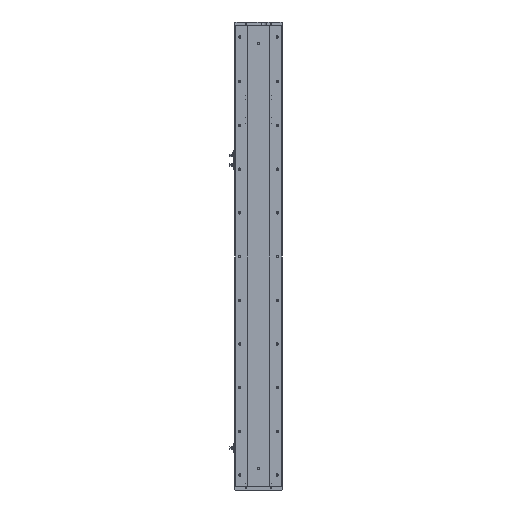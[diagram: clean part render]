
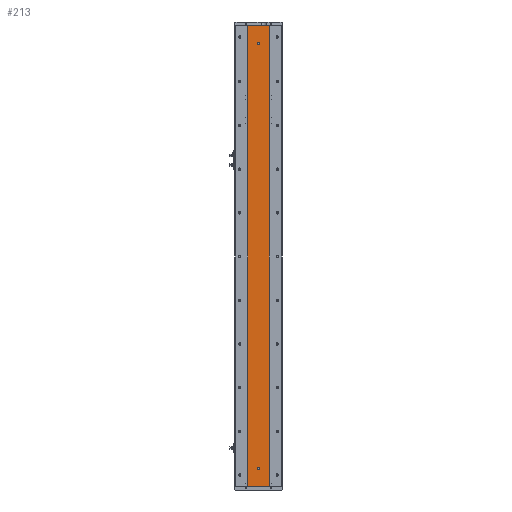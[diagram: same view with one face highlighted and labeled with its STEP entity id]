
A CAD part, left-side view. The second image highlights one B-rep face of the part: STEP entity #213.
In plain terms, the highlighted planar face has unit normal (-1, 0, 0).
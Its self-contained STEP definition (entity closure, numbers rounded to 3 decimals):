
#213 = ADVANCED_FACE ( 'NONE', ( #20143, #35159, #36101 ), #17549, .F. ) ;
#459 = DIRECTION ( 'NONE',  ( -1., 0., 0. ) ) ;
#1183 = EDGE_LOOP ( 'NONE', ( #2146, #31693 ) ) ;
#2096 = ORIENTED_EDGE ( 'NONE', *, *, #8439, .F. ) ;
#2146 = ORIENTED_EDGE ( 'NONE', *, *, #8100, .F. ) ;
#2249 = CIRCLE ( 'NONE', #21622, 3. ) ;
#2748 = ORIENTED_EDGE ( 'NONE', *, *, #13343, .F. ) ;
#4280 = DIRECTION ( 'NONE',  ( 0., 0., -1. ) ) ;
#4372 = CARTESIAN_POINT ( 'NONE',  ( -24.994, 0., 47. ) ) ;
#5223 = LINE ( 'NONE', #28198, #36242 ) ;
#5454 = LINE ( 'NONE', #36158, #21473 ) ;
#6476 = CARTESIAN_POINT ( 'NONE',  ( -24.994, -29.785, 0. ) ) ;
#7330 = CIRCLE ( 'NONE', #28599, 3. ) ;
#7400 = CARTESIAN_POINT ( 'NONE',  ( -24.994, 0., 50. ) ) ;
#7782 = AXIS2_PLACEMENT_3D ( 'NONE', #18469, #459, #21503 ) ;
#8100 = EDGE_CURVE ( 'NONE', #23313, #16686, #2249, .T. ) ;
#8439 = EDGE_CURVE ( 'NONE', #11694, #11923, #5454, .T. ) ;
#8769 = VERTEX_POINT ( 'NONE', #38427 ) ;
#8916 = VERTEX_POINT ( 'NONE', #30285 ) ;
#10459 = DIRECTION ( 'NONE',  ( 0., 0., 1. ) ) ;
#10730 = VERTEX_POINT ( 'NONE', #6476 ) ;
#10783 = CARTESIAN_POINT ( 'NONE',  ( -24.994, 29.785, 0. ) ) ;
#11694 = VERTEX_POINT ( 'NONE', #37237 ) ;
#11743 = DIRECTION ( 'NONE',  ( 1., 0., 0. ) ) ;
#11923 = VERTEX_POINT ( 'NONE', #38535 ) ;
#13303 = CARTESIAN_POINT ( 'NONE',  ( -24.994, 0., 50. ) ) ;
#13343 = EDGE_CURVE ( 'NONE', #8916, #8769, #22675, .T. ) ;
#13418 = CARTESIAN_POINT ( 'NONE',  ( -24.994, 0., 1215. ) ) ;
#13538 = EDGE_CURVE ( 'NONE', #11694, #17164, #5223, .T. ) ;
#13809 = VECTOR ( 'NONE', #4280, 1000. ) ;
#14934 = EDGE_CURVE ( 'NONE', #16686, #23313, #7330, .T. ) ;
#16335 = ORIENTED_EDGE ( 'NONE', *, *, #35121, .F. ) ;
#16384 = DIRECTION ( 'NONE',  ( 0., 0., 1. ) ) ;
#16485 = DIRECTION ( 'NONE',  ( 0., 0., 1. ) ) ;
#16686 = VERTEX_POINT ( 'NONE', #4372 ) ;
#16825 = CARTESIAN_POINT ( 'NONE',  ( -24.994, 29.785, 0. ) ) ;
#16952 = DIRECTION ( 'NONE',  ( 0., -1., 0. ) ) ;
#17164 = VERTEX_POINT ( 'NONE', #10783 ) ;
#17549 = PLANE ( 'NONE',  #23681 ) ;
#18055 = EDGE_CURVE ( 'NONE', #8769, #8916, #21895, .T. ) ;
#18192 = DIRECTION ( 'NONE',  ( 0., -1., 0. ) ) ;
#18469 = CARTESIAN_POINT ( 'NONE',  ( -24.994, 0., 1215. ) ) ;
#20143 = FACE_BOUND ( 'NONE', #35669, .T. ) ;
#21153 = AXIS2_PLACEMENT_3D ( 'NONE', #13418, #34437, #16485 ) ;
#21473 = VECTOR ( 'NONE', #18192, 1000. ) ;
#21503 = DIRECTION ( 'NONE',  ( 0., 0., 1. ) ) ;
#21622 = AXIS2_PLACEMENT_3D ( 'NONE', #13303, #34339, #16384 ) ;
#21663 = LINE ( 'NONE', #16825, #29666 ) ;
#21895 = CIRCLE ( 'NONE', #21153, 3. ) ;
#22287 = CARTESIAN_POINT ( 'NONE',  ( -24.994, -29.785, 1265. ) ) ;
#22675 = CIRCLE ( 'NONE', #7782, 3. ) ;
#23013 = ORIENTED_EDGE ( 'NONE', *, *, #13538, .T. ) ;
#23313 = VERTEX_POINT ( 'NONE', #31140 ) ;
#23681 = AXIS2_PLACEMENT_3D ( 'NONE', #29783, #11743, #32806 ) ;
#26875 = EDGE_CURVE ( 'NONE', #17164, #10730, #21663, .T. ) ;
#28064 = ORIENTED_EDGE ( 'NONE', *, *, #26875, .T. ) ;
#28198 = CARTESIAN_POINT ( 'NONE',  ( -24.994, 29.785, 1265. ) ) ;
#28494 = DIRECTION ( 'NONE',  ( -1., 0., 0. ) ) ;
#28599 = AXIS2_PLACEMENT_3D ( 'NONE', #7400, #28494, #10459 ) ;
#29666 = VECTOR ( 'NONE', #16952, 1000. ) ;
#29783 = CARTESIAN_POINT ( 'NONE',  ( -24.994, 29.785, 1265. ) ) ;
#29836 = LINE ( 'NONE', #22287, #13809 ) ;
#30285 = CARTESIAN_POINT ( 'NONE',  ( -24.994, 0., 1218. ) ) ;
#30509 = EDGE_LOOP ( 'NONE', ( #28064, #16335, #2096, #23013 ) ) ;
#31140 = CARTESIAN_POINT ( 'NONE',  ( -24.994, 0., 53. ) ) ;
#31339 = DIRECTION ( 'NONE',  ( 0., 0., -1. ) ) ;
#31693 = ORIENTED_EDGE ( 'NONE', *, *, #14934, .F. ) ;
#32806 = DIRECTION ( 'NONE',  ( 0., 0., -1. ) ) ;
#34339 = DIRECTION ( 'NONE',  ( -1., 0., 0. ) ) ;
#34437 = DIRECTION ( 'NONE',  ( -1., 0., 0. ) ) ;
#35121 = EDGE_CURVE ( 'NONE', #11923, #10730, #29836, .T. ) ;
#35159 = FACE_BOUND ( 'NONE', #1183, .T. ) ;
#35669 = EDGE_LOOP ( 'NONE', ( #2748, #38170 ) ) ;
#36101 = FACE_OUTER_BOUND ( 'NONE', #30509, .T. ) ;
#36158 = CARTESIAN_POINT ( 'NONE',  ( -24.994, 29.785, 1265. ) ) ;
#36242 = VECTOR ( 'NONE', #31339, 1000. ) ;
#37237 = CARTESIAN_POINT ( 'NONE',  ( -24.994, 29.785, 1265. ) ) ;
#38170 = ORIENTED_EDGE ( 'NONE', *, *, #18055, .F. ) ;
#38427 = CARTESIAN_POINT ( 'NONE',  ( -24.994, 0., 1212. ) ) ;
#38535 = CARTESIAN_POINT ( 'NONE',  ( -24.994, -29.785, 1265. ) ) ;
